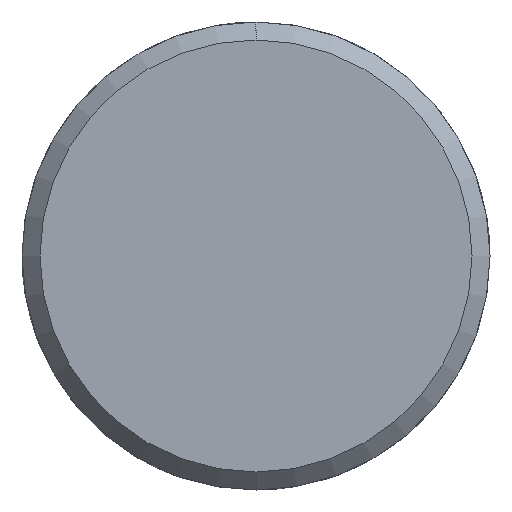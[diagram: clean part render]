
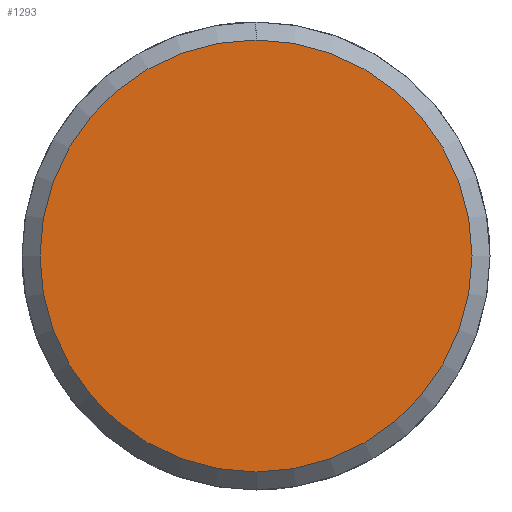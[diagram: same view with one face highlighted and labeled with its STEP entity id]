
A CAD part, left-side view. The second image highlights one B-rep face of the part: STEP entity #1293.
In plain terms, the highlighted planar face has unit normal (-1, 0, 0).
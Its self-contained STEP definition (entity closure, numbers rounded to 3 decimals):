
#1225=CARTESIAN_POINT('Vertex',(-5.,0.,-12.)) ;
#1228=CARTESIAN_POINT('Axis2P3D Location',(-5.,0.,0.)) ;
#1232=CARTESIAN_POINT('Vertex',(-5.,12.,0.)) ;
#1235=CARTESIAN_POINT('Axis2P3D Location',(-5.,0.,0.)) ;
#1239=CARTESIAN_POINT('Vertex',(-5.,0.,12.)) ;
#1261=CARTESIAN_POINT('Axis2P3D Location',(-5.,0.,0.)) ;
#1265=CARTESIAN_POINT('Vertex',(-5.,-12.,0.)) ;
#1268=CARTESIAN_POINT('Axis2P3D Location',(-5.,0.,0.)) ;
#1282=CARTESIAN_POINT('Axis2P3D Location',(-5.,0.,0.)) ;
#1229=DIRECTION('Axis2P3D Direction',(1.,0.,-0.)) ;
#1236=DIRECTION('Axis2P3D Direction',(1.,0.,-0.)) ;
#1262=DIRECTION('Axis2P3D Direction',(1.,0.,-0.)) ;
#1269=DIRECTION('Axis2P3D Direction',(1.,0.,-0.)) ;
#1283=DIRECTION('Axis2P3D Direction',(1.,0.,-0.)) ;
#1284=DIRECTION('Axis2P3D XDirection',(-0.,0.,-1.)) ;
#1230=AXIS2_PLACEMENT_3D('Circle Axis2P3D',#1228,#1229,$) ;
#1237=AXIS2_PLACEMENT_3D('Circle Axis2P3D',#1235,#1236,$) ;
#1263=AXIS2_PLACEMENT_3D('Circle Axis2P3D',#1261,#1262,$) ;
#1270=AXIS2_PLACEMENT_3D('Circle Axis2P3D',#1268,#1269,$) ;
#1285=AXIS2_PLACEMENT_3D('Plane Axis2P3D',#1282,#1283,#1284) ;
#1288=ORIENTED_EDGE('',*,*,#1234,.F.) ;
#1289=ORIENTED_EDGE('',*,*,#1272,.F.) ;
#1290=ORIENTED_EDGE('',*,*,#1267,.F.) ;
#1291=ORIENTED_EDGE('',*,*,#1241,.F.) ;
#1293=ADVANCED_FACE('351-16X56X160',(#1292),#1286,.F.) ;
#1231=CIRCLE('generated circle',#1230,12.) ;
#1238=CIRCLE('generated circle',#1237,12.) ;
#1264=CIRCLE('generated circle',#1263,12.) ;
#1271=CIRCLE('generated circle',#1270,12.) ;
#1234=EDGE_CURVE('',#1226,#1233,#1231,.T.) ;
#1241=EDGE_CURVE('',#1233,#1240,#1238,.T.) ;
#1267=EDGE_CURVE('',#1240,#1266,#1264,.T.) ;
#1272=EDGE_CURVE('',#1266,#1226,#1271,.T.) ;
#1287=EDGE_LOOP('',(#1288,#1289,#1290,#1291)) ;
#1292=FACE_OUTER_BOUND('',#1287,.T.) ;
#1286=PLANE('Plane',#1285) ;
#1226=VERTEX_POINT('',#1225) ;
#1233=VERTEX_POINT('',#1232) ;
#1240=VERTEX_POINT('',#1239) ;
#1266=VERTEX_POINT('',#1265) ;
